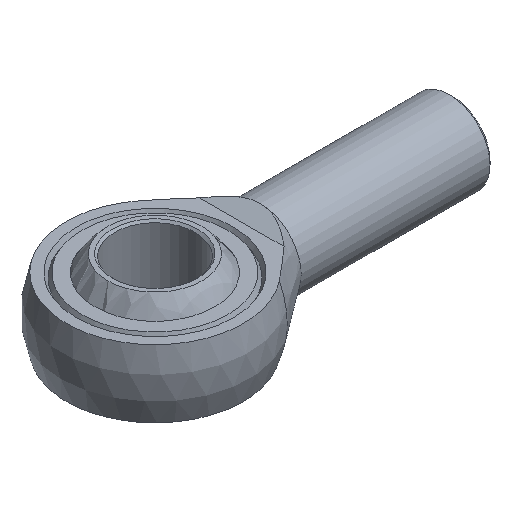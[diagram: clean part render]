
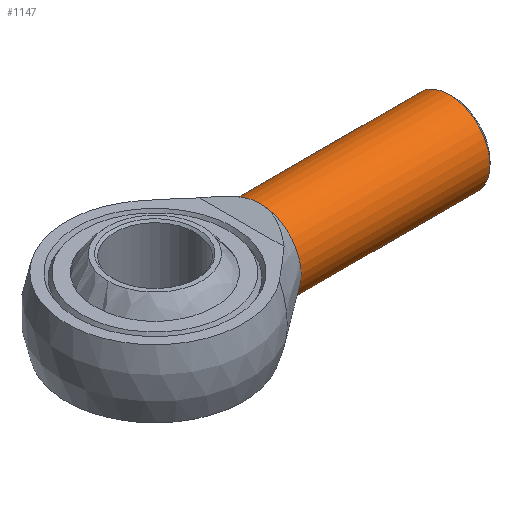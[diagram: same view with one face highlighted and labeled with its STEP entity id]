
A CAD part, isometric view. The second image highlights one B-rep face of the part: STEP entity #1147.
In plain terms, the highlighted cylindrical face has radius 15 mm (diameter 30 mm), a full revolution.
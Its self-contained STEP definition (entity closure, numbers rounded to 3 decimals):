
#29 = AXIS2_PLACEMENT_3D ( 'NONE', #208, #118, #850 ) ;
#31 = CARTESIAN_POINT ( 'NONE',  ( 39., 0., 15. ) ) ;
#56 = ORIENTED_EDGE ( 'NONE', *, *, #571, .F. ) ;
#118 = DIRECTION ( 'NONE',  ( 1., 0., 0. ) ) ;
#185 = ORIENTED_EDGE ( 'NONE', *, *, #1279, .T. ) ;
#208 = CARTESIAN_POINT ( 'NONE',  ( 39., 0., 0. ) ) ;
#231 = AXIS2_PLACEMENT_3D ( 'NONE', #668, #758, #472 ) ;
#330 = DIRECTION ( 'NONE',  ( 0., 0., -1. ) ) ;
#381 = AXIS2_PLACEMENT_3D ( 'NONE', #525, #829, #330 ) ;
#472 = DIRECTION ( 'NONE',  ( 0., 0., -1. ) ) ;
#480 = ORIENTED_EDGE ( 'NONE', *, *, #823, .T. ) ;
#484 = EDGE_LOOP ( 'NONE', ( #185, #480 ) ) ;
#522 = DIRECTION ( 'NONE',  ( 1., 0., 0. ) ) ;
#525 = CARTESIAN_POINT ( 'NONE',  ( 39., 0., 0. ) ) ;
#571 = EDGE_CURVE ( 'NONE', #1108, #1108, #599, .T. ) ;
#597 = CARTESIAN_POINT ( 'NONE',  ( 108.773, 0., -15. ) ) ;
#599 = CIRCLE ( 'NONE', #1155, 15. ) ;
#606 = CIRCLE ( 'NONE', #29, 15. ) ;
#626 = CARTESIAN_POINT ( 'NONE',  ( 108.773, 0., 0. ) ) ;
#668 = CARTESIAN_POINT ( 'NONE',  ( 110., 0., 0. ) ) ;
#758 = DIRECTION ( 'NONE',  ( 1., 0., 0. ) ) ;
#794 = CIRCLE ( 'NONE', #381, 15. ) ;
#823 = EDGE_CURVE ( 'NONE', #956, #1080, #606, .T. ) ;
#829 = DIRECTION ( 'NONE',  ( 1., 0., 0. ) ) ;
#850 = DIRECTION ( 'NONE',  ( 0., 0., 1. ) ) ;
#872 = FACE_OUTER_BOUND ( 'NONE', #484, .T. ) ;
#898 = CYLINDRICAL_SURFACE ( 'NONE', #231, 15. ) ;
#905 = EDGE_LOOP ( 'NONE', ( #56 ) ) ;
#956 = VERTEX_POINT ( 'NONE', #31 ) ;
#976 = CARTESIAN_POINT ( 'NONE',  ( 39., 0., -15. ) ) ;
#1080 = VERTEX_POINT ( 'NONE', #976 ) ;
#1108 = VERTEX_POINT ( 'NONE', #597 ) ;
#1144 = DIRECTION ( 'NONE',  ( 0., 0., -1. ) ) ;
#1147 = ADVANCED_FACE ( 'NONE', ( #1158, #872 ), #898, .T. ) ;
#1155 = AXIS2_PLACEMENT_3D ( 'NONE', #626, #522, #1144 ) ;
#1158 = FACE_OUTER_BOUND ( 'NONE', #905, .T. ) ;
#1279 = EDGE_CURVE ( 'NONE', #1080, #956, #794, .T. ) ;
